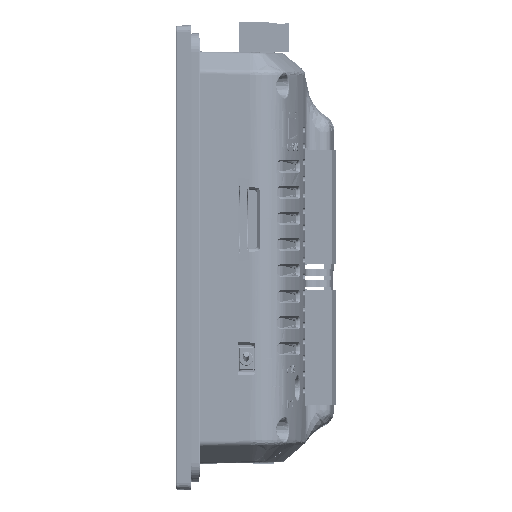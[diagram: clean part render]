
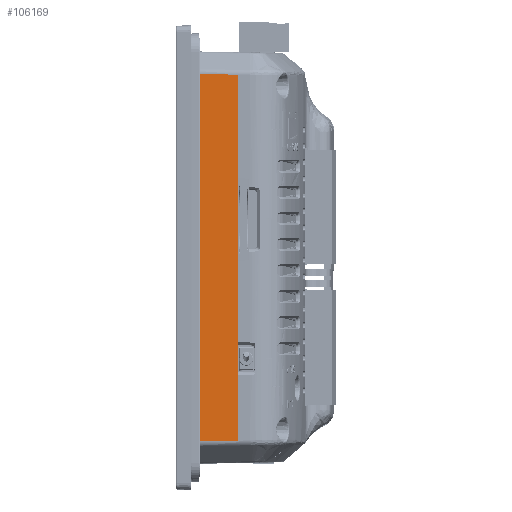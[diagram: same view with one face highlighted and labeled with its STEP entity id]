
A CAD part, left-side view. The second image highlights one B-rep face of the part: STEP entity #106169.
In plain terms, the highlighted planar face has unit normal (-1, -0.018, 0).
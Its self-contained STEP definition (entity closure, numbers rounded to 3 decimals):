
#12238=CARTESIAN_POINT('',(-94.557,-13.9,56.139));
#15103=CARTESIAN_POINT('',(-94.765,-2.,56.346));
#15163=DIRECTION('',(0.,0.,-1.));
#15164=VECTOR('',#15163,112.693);
#15165=CARTESIAN_POINT('',(-94.765,-2.,56.346));
#15166=LINE('',#15165,#15164);
#15167=DIRECTION('',(-0.017,1.,0.017));
#15168=VECTOR('',#15167,11.904);
#15169=CARTESIAN_POINT('',(-94.557,-13.9,56.139));
#15170=LINE('',#15169,#15168);
#15171=DIRECTION('',(0.,0.,1.));
#15172=VECTOR('',#15171,112.277);
#15173=CARTESIAN_POINT('',(-94.557,-13.9,-56.139));
#15174=LINE('',#15173,#15172);
#15175=DIRECTION('',(0.017,-1.,0.017));
#15176=VECTOR('',#15175,11.904);
#15177=CARTESIAN_POINT('',(-94.765,-2.,-56.346));
#15178=LINE('',#15177,#15176);
#84714=VERTEX_POINT('',#12238);
#84715=CARTESIAN_POINT('',(-94.557,-13.9,-56.139));
#84716=VERTEX_POINT('',#84715);
#88102=VERTEX_POINT('',#15103);
#88103=CARTESIAN_POINT('',(-94.765,-2.,-56.346));
#88104=VERTEX_POINT('',#88103);
#106157=CARTESIAN_POINT('',(-94.679,-6.95,
0.));
#106158=DIRECTION('',(1.,0.017,0.));
#106159=DIRECTION('',(0.,0.,-1.));
#106160=AXIS2_PLACEMENT_3D('',#106157,#106158,#106159);
#106161=PLANE('',#106160);
#106162=ORIENTED_EDGE('',*,*,#104405,.F.);
#106163=ORIENTED_EDGE('',*,*,#106064,.F.);
#106164=ORIENTED_EDGE('',*,*,#102309,.F.);
#106166=ORIENTED_EDGE('',*,*,#106165,.F.);
#106167=EDGE_LOOP('',(#106162,#106163,#106164,#106166));
#106168=FACE_OUTER_BOUND('',#106167,.F.);
#106169=ADVANCED_FACE('',(#106168),#106161,.F.);
#102309=EDGE_CURVE('',#84716,#84714,#15174,.T.);
#104405=EDGE_CURVE('',#88102,#88104,#15166,.T.);
#106064=EDGE_CURVE('',#84714,#88102,#15170,.T.);
#106165=EDGE_CURVE('',#88104,#84716,#15178,.T.);
